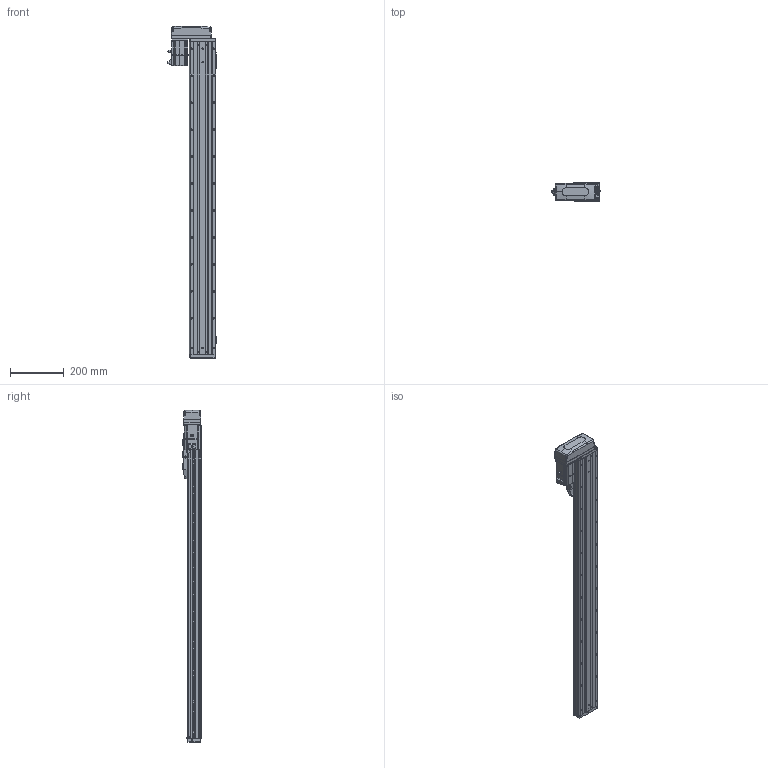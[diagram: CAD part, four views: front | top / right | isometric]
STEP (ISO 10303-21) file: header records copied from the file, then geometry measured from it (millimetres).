
FILE_DESCRIPTION (( 'STEP AP203' ), '1' );
FILE_NAME ('CTHA100-950-BL-M20-C4L.step', '2022-07-06T09:10:37', ( '微软用户' ), ( '微软中国' ), 'SwSTEP 2.0', 'SolidWorks 2020', '' );
FILE_SCHEMA (( 'CONFIG_CONTROL_DESIGN' ));
Length unit declared in the file: millimetre
Products named in the file (19): KTHA100-004; GBT 70.1-M3℅6; GBT 70.3-M3℅6; KTHA100-005; GBT70.1 M5℅16; CTHA86-015-1_CTHA86-015-2; GB¨uT 70.2-M3¡Á5_M3¡Á6; CTHA60-016; CTHA86-033; EE_SX911P_R; _X2_4E0983F1_X0_200W_1; CTHA100-950-BL-M20-C4L; CTHA60-017; CTHA100-002; CTHA60-021; CTHA100-031; KTHA100-001_1160; GBT77-2000 M3×3; CTHA86-030
Assembly tree (64 placements, depth 2):
  CTHA100-950-BL-M20-C4L
    KTHA100-001_1160
    KTHA100-004
    KTHA100-005
    GB¨uT 70.2-M3¡Á5_M3¡Á6  x10
    EE_SX911P_R  x3
    CTHA60-017  x3
    CTHA60-021  x2
    GBT77-2000 M3×3  x6
    GBT 70.1-M3℅6  x10
    GBT70.1 M5℅16  x14
    CTHA60-016  x2
    _X2_4E0983F1_X0_200W_1
    CTHA100-002
    CTHA100-031
    CTHA86-030  x2
    GBT 70.3-M3℅6  x4
    CTHA86-015-1_CTHA86-015-2
    CTHA86-033
Bounding box: 178.52 x 68 x 1231 mm (x, y, z)
Volume: 4914914.5 mm3; surface area: 813227.7 mm2
Topology: 66 solids, 66 shells, 2749 faces, 6639 edges, 4120 vertices
Faces by surface type: plane 1440, cylinder 725, cone 361, torus 124, bspline 75, sphere 24
Entity records: 48576 total; most frequent: CARTESIAN_POINT 9483, DIRECTION 7534, ORIENTED_EDGE 7394, EDGE_CURVE 3697, AXIS2_PLACEMENT_3D 2543, LINE 2448, VECTOR 2448, VERTEX_POINT 2340
